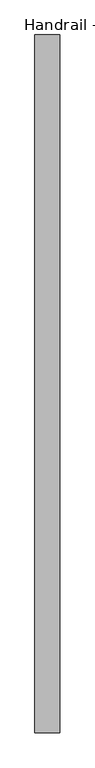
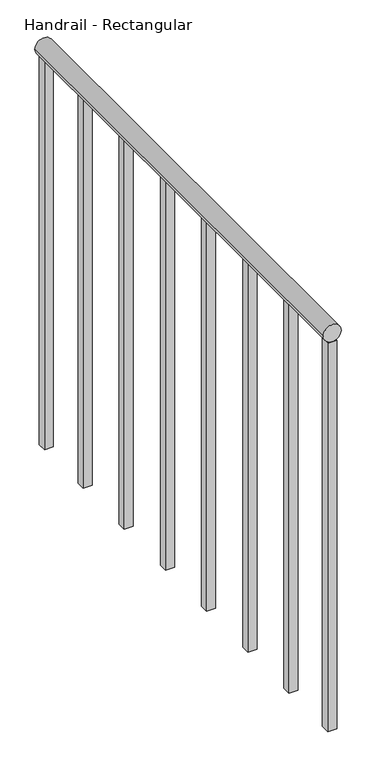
"""IFC4 building model written with IfcOpenShell, lengths in millimetres: railing geometry, Handrail - Rectangular."""

from ifc_helpers import new_model, si_unit, point, frame, frame_2d, origin, place, context, project, spatial, polyline, circle_curve, trimmed, segment, composite_curve, outline, extrude, source, transform, mapped, element, save


def handrail_rectangular_b4f5aae1(model_context):
    return source(origin(), model_context, "Body", "SweptSolid", [
        extrude(outline(composite_curve([segment(trimmed(circle_curve(frame_2d((10039.35, 2297.1410437)), 19.05), [point((10039.35, 2316.1910437))], [point((10039.35, 2278.0910437))], False, "CARTESIAN"), True, "CONTINUOUS"), segment(trimmed(circle_curve(frame_2d((10039.35, 2297.1410437)), 19.05), [point((10039.35, 2278.0910437))], [point((10039.35, 2316.1910437))], False, "CARTESIAN"), True, "CONTINUOUS")], self_intersect=False)), frame((0.0, 10674.8316867, 0.0), z_axis=(0.0, 1.0, 0.0), x_axis=(0.0, 0.0, 1.0)), (0.0, 0.0, 1.0), 1066.8),
        extrude(outline(polyline([(2287.6160437, 10836.7566867), (2306.6660437, 10836.7566867), (2306.6660437, 10817.7066867), (2287.6160437, 10817.7066867), (2287.6160437, 10836.7566867)])), frame((0.0, 0.0, 9144.0), z_axis=(0.0, 0.0, 1.0), x_axis=(1.0, 0.0, 0.0)), (0.0, 0.0, 1.0), 876.3),
        extrude(outline(polyline([(2287.6160437, 10989.1566867), (2306.6660437, 10989.1566867), (2306.6660437, 10970.1066867), (2287.6160437, 10970.1066867), (2287.6160437, 10989.1566867)])), frame((0.0, 0.0, 9144.0), z_axis=(0.0, 0.0, 1.0), x_axis=(1.0, 0.0, 0.0)), (0.0, 0.0, 1.0), 876.3),
        extrude(outline(polyline([(2287.6160437, 11141.5566867), (2306.6660437, 11141.5566867), (2306.6660437, 11122.5066867), (2287.6160437, 11122.5066867), (2287.6160437, 11141.5566867)])), frame((0.0, 0.0, 9144.0), z_axis=(0.0, 0.0, 1.0), x_axis=(1.0, 0.0, 0.0)), (0.0, 0.0, 1.0), 876.3),
        extrude(outline(polyline([(2287.6160437, 11293.9566867), (2306.6660437, 11293.9566867), (2306.6660437, 11274.9066867), (2287.6160437, 11274.9066867), (2287.6160437, 11293.9566867)])), frame((0.0, 0.0, 9144.0), z_axis=(0.0, 0.0, 1.0), x_axis=(1.0, 0.0, 0.0)), (0.0, 0.0, 1.0), 876.3),
        extrude(outline(polyline([(2287.6160437, 11446.3566867), (2306.6660437, 11446.3566867), (2306.6660437, 11427.3066867), (2287.6160437, 11427.3066867), (2287.6160437, 11446.3566867)])), frame((0.0, 0.0, 9144.0), z_axis=(0.0, 0.0, 1.0), x_axis=(1.0, 0.0, 0.0)), (0.0, 0.0, 1.0), 876.3),
        extrude(outline(polyline([(2287.6160437, 11598.7566867), (2306.6660437, 11598.7566867), (2306.6660437, 11579.7066867), (2287.6160437, 11579.7066867), (2287.6160437, 11598.7566867)])), frame((0.0, 0.0, 9144.0), z_axis=(0.0, 0.0, 1.0), x_axis=(1.0, 0.0, 0.0)), (0.0, 0.0, 1.0), 876.3),
        extrude(outline(polyline([(2287.6160437, 10693.8816867), (2306.6660437, 10693.8816867), (2306.6660437, 10674.8316867), (2287.6160437, 10674.8316867), (2287.6160437, 10693.8816867)])), frame((0.0, 0.0, 9144.0), z_axis=(0.0, 0.0, 1.0), x_axis=(1.0, 0.0, 0.0)), (0.0, 0.0, 1.0), 876.3),
        extrude(outline(polyline([(2287.6160437, 11741.6316867), (2306.6660437, 11741.6316867), (2306.6660437, 11722.5816867), (2287.6160437, 11722.5816867), (2287.6160437, 11741.6316867)])), frame((0.0, 0.0, 9144.0), z_axis=(0.0, 0.0, 1.0), x_axis=(1.0, 0.0, 0.0)), (0.0, 0.0, 1.0), 876.3),
    ])


if __name__ == "__main__":
    model = new_model("IFC4")
    model_context = context("Model", 3, world=origin())
    ifc_project = project(units=[si_unit("LENGTHUNIT", "METRE", prefix="MILLI")], contexts=[model_context])
    site = spatial("IfcSite", under=ifc_project)
    building = spatial("IfcBuilding", under=site)
    placement = place(None, origin())
    handrail_rectangular_shape = handrail_rectangular_b4f5aae1(model_context)
    element("IfcRailing", 1, ObjectType="Handrail - Rectangular", at=placement, inside=building, context=model_context, shape_type="MappedRepresentation", body=[
        mapped(handrail_rectangular_shape, transform((0.0, 0.0, 0.0), x_axis=(1.0, 0.0, 0.0), y_axis=(0.0, 1.0, 0.0), z_axis=(0.0, 0.0, 1.0))),
    ])
    save(model, "model.ifc")
